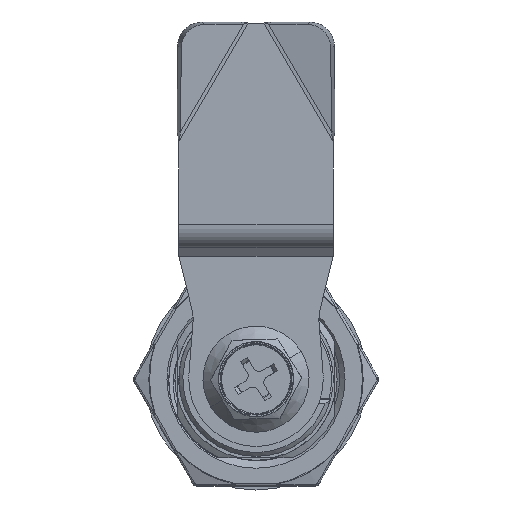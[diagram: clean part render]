
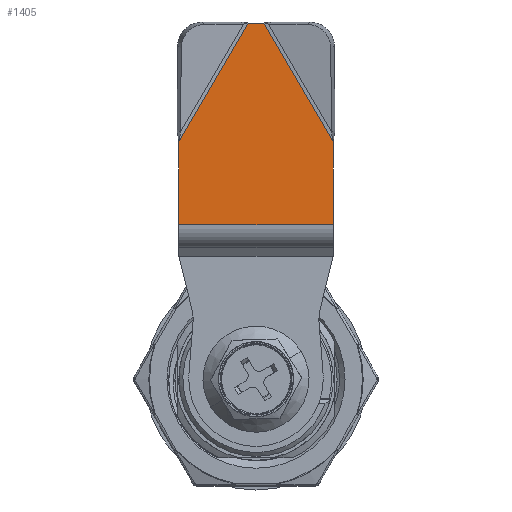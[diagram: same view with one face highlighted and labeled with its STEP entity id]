
A CAD part, front view. The second image highlights one B-rep face of the part: STEP entity #1405.
In plain terms, the highlighted planar face has unit normal (0, -1, 0).
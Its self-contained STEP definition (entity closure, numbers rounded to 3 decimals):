
#243 = CARTESIAN_POINT ( 'NONE',  ( -38.5, -8., -9.75 ) ) ;
#260 = LINE ( 'NONE', #17389, #12381 ) ;
#981 = VECTOR ( 'NONE', #22377, 1000. ) ;
#1405 = ADVANCED_FACE ( 'NONE', ( #27007 ), #17894, .T. ) ;
#1759 = VECTOR ( 'NONE', #33052, 1000. ) ;
#1892 = VECTOR ( 'NONE', #37675, 1000. ) ;
#3939 = LINE ( 'NONE', #20785, #1892 ) ;
#5950 = EDGE_LOOP ( 'NONE', ( #47905, #9447, #13307, #21855, #28056, #43523 ) ) ;
#6106 = CARTESIAN_POINT ( 'NONE',  ( -53.5, -8., 1. ) ) ;
#6397 = DIRECTION ( 'NONE',  ( 0., 0., 1. ) ) ;
#7965 = LINE ( 'NONE', #38616, #52050 ) ;
#9447 = ORIENTED_EDGE ( 'NONE', *, *, #23380, .T. ) ;
#10723 = VERTEX_POINT ( 'NONE', #12073 ) ;
#12073 = CARTESIAN_POINT ( 'NONE',  ( -53.5, -8., -1. ) ) ;
#12381 = VECTOR ( 'NONE', #17121, 1000. ) ;
#13307 = ORIENTED_EDGE ( 'NONE', *, *, #34438, .F. ) ;
#17121 = DIRECTION ( 'NONE',  ( 1., 0., 0. ) ) ;
#17389 = CARTESIAN_POINT ( 'NONE',  ( -24.05, -8., 9.75 ) ) ;
#17894 = PLANE ( 'NONE',  #29434 ) ;
#19374 = LINE ( 'NONE', #23241, #35319 ) ;
#20785 = CARTESIAN_POINT ( 'NONE',  ( -48.759, -8., 3.766 ) ) ;
#21855 = ORIENTED_EDGE ( 'NONE', *, *, #27064, .F. ) ;
#22377 = DIRECTION ( 'NONE',  ( 1., 0., 0. ) ) ;
#22395 = EDGE_CURVE ( 'NONE', #10723, #47667, #7965, .T. ) ;
#23241 = CARTESIAN_POINT ( 'NONE',  ( -28.04, -8., 6.75 ) ) ;
#23380 = EDGE_CURVE ( 'NONE', #33510, #48721, #19374, .T. ) ;
#25060 = DIRECTION ( 'NONE',  ( 0.864, 0., -0.504 ) ) ;
#26531 = CARTESIAN_POINT ( 'NONE',  ( -24.05, -8., -9.75 ) ) ;
#27007 = FACE_OUTER_BOUND ( 'NONE', #5950, .T. ) ;
#27064 = EDGE_CURVE ( 'NONE', #33903, #34226, #3939, .T. ) ;
#27617 = EDGE_CURVE ( 'NONE', #47667, #33510, #51964, .T. ) ;
#28056 = ORIENTED_EDGE ( 'NONE', *, *, #52930, .F. ) ;
#29004 = CARTESIAN_POINT ( 'NONE',  ( -38.5, -8., 9.75 ) ) ;
#29434 = AXIS2_PLACEMENT_3D ( 'NONE', #52176, #44429, #39187 ) ;
#33052 = DIRECTION ( 'NONE',  ( 0., 0., 1. ) ) ;
#33510 = VERTEX_POINT ( 'NONE', #40716 ) ;
#33903 = VERTEX_POINT ( 'NONE', #6106 ) ;
#34226 = VERTEX_POINT ( 'NONE', #29004 ) ;
#34438 = EDGE_CURVE ( 'NONE', #34226, #48721, #260, .T. ) ;
#35319 = VECTOR ( 'NONE', #6397, 1000. ) ;
#36942 = CARTESIAN_POINT ( 'NONE',  ( -53.5, -8., -6.75 ) ) ;
#37675 = DIRECTION ( 'NONE',  ( 0.864, 0., 0.504 ) ) ;
#38616 = CARTESIAN_POINT ( 'NONE',  ( -54.635, -8., -0.338 ) ) ;
#39187 = DIRECTION ( 'NONE',  ( 0., 0., -1. ) ) ;
#40211 = CARTESIAN_POINT ( 'NONE',  ( -28.04, -8., 9.75 ) ) ;
#40716 = CARTESIAN_POINT ( 'NONE',  ( -28.04, -8., -9.75 ) ) ;
#41624 = LINE ( 'NONE', #36942, #1759 ) ;
#43523 = ORIENTED_EDGE ( 'NONE', *, *, #22395, .T. ) ;
#44429 = DIRECTION ( 'NONE',  ( 0., -1., 0. ) ) ;
#47667 = VERTEX_POINT ( 'NONE', #243 ) ;
#47905 = ORIENTED_EDGE ( 'NONE', *, *, #27617, .T. ) ;
#48721 = VERTEX_POINT ( 'NONE', #40211 ) ;
#51964 = LINE ( 'NONE', #26531, #981 ) ;
#52050 = VECTOR ( 'NONE', #25060, 1000. ) ;
#52176 = CARTESIAN_POINT ( 'NONE',  ( -47.571, -8., 6.75 ) ) ;
#52930 = EDGE_CURVE ( 'NONE', #10723, #33903, #41624, .T. ) ;
